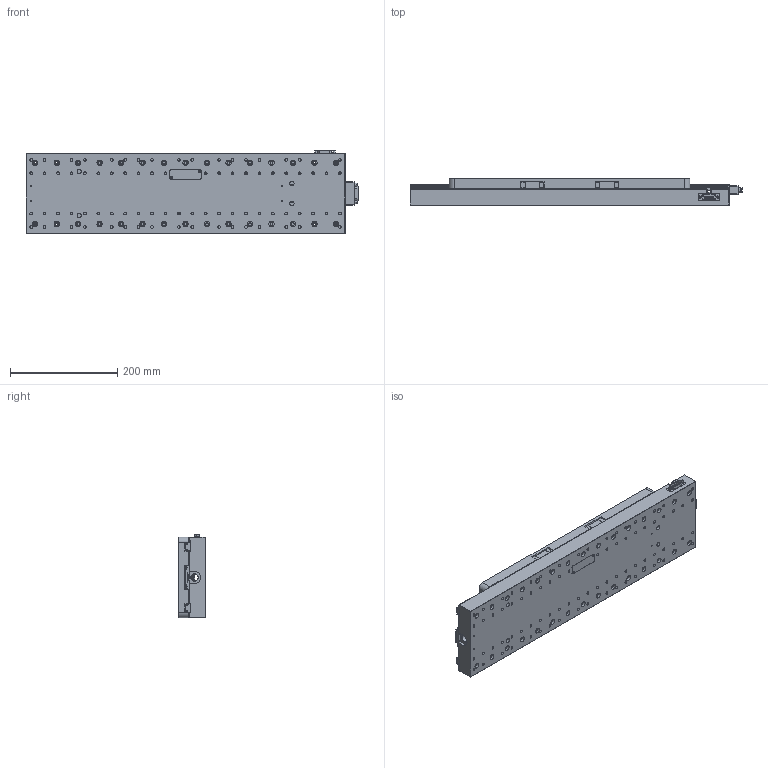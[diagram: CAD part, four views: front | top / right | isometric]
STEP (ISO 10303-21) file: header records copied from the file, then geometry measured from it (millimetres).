
FILE_DESCRIPTION (( 'STEP AP214' ), '1' );
FILE_NAME ('LS-400LE ASSM (CATALOG MODEL).STEP', '2020-10-22T22:57:39', ( 'Aaron' ), ( 'Microsoft' ), 'SwSTEP 2.0', 'SolidWorks 2020', '' );
FILE_SCHEMA (( 'AUTOMOTIVE_DESIGN' ));
Length unit declared in the file: inch
Products named in the file (1): LS-400LE ASSM (CATALOG MODEL)
Bounding box: 618.29 x 50.04 x 155.38 mm (x, y, z)
Surface area: 508599.8 mm2 (no closed solid volume)
Topology: 0 solids, 33 shells, 887 faces, 2917 edges, 2098 vertices
Faces by surface type: cylinder 433, plane 417, cone 37
Full cylindrical faces by diameter (mm): 0.914 x30, 1.6 x2, 2.184 x2, 2.261 x8, 2.4 x2, 2.5 x10, 3.175 x13, 4.134 x8, 4.902 x6, 5 x172, 5.512 x2, 5.537 x18, 6.007 x4, 6.35 x27, 7.925 x1, 8.001 x4, 10 x30, 13 x1
Entity records: 47817 total; most frequent: CARTESIAN_POINT 22193, DIRECTION 4967, ORIENTED_EDGE 3995, EDGE_CURVE 2545, VERTEX_POINT 2088, AXIS2_PLACEMENT_3D 1796, EDGE_LOOP 1738, LINE 1375
